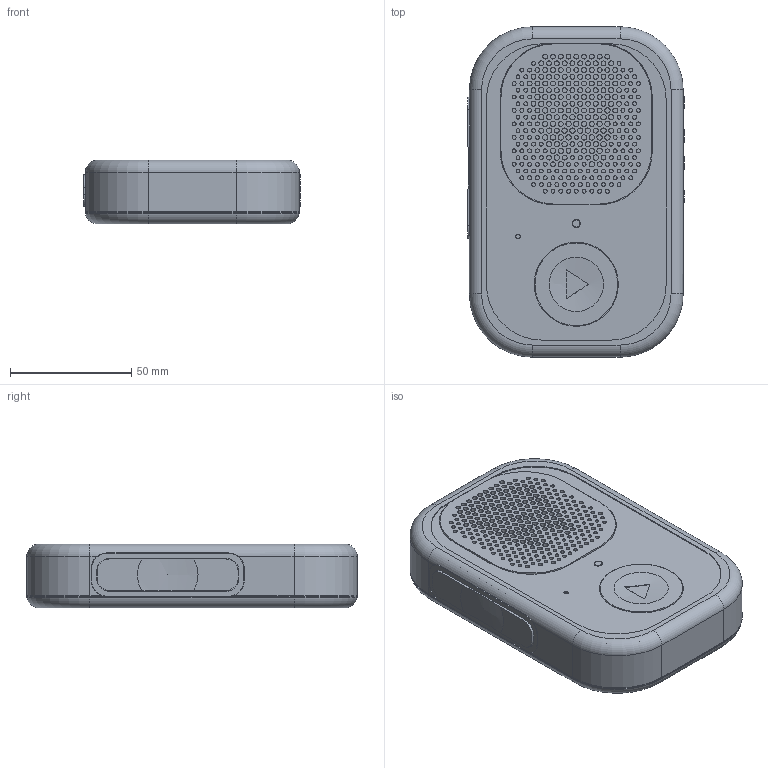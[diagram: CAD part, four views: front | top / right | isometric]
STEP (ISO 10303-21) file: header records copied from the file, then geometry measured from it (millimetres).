
FILE_DESCRIPTION(/* description */ (''),/* implementation_level */ '2;1');
FILE_NAME(/* name */ 'Walkie_One_5_2_R8_26_2_CASE_FUSION.step',/* time_stamp */ '2026-09-09T11:52:29-07:00',/* author */ (''),/* organization */ (''),/* preprocessor_version */ 'ST-DEVELOPER v20.1',/* originating_system */ 'Autodesk Translation Framework v15.8.0.0',/* authorisation */ '');
FILE_SCHEMA (('AUTOMOTIVE_DESIGN { 1 0 10303 214 3 1 1 }'));
Products named in the file (83): 2026-09-09-11-52-28-942; 2026-09-09-11-52-28-942_1; 2026-09-09-11-52-28-942_2; 2026-09-09-11-52-28-948; 2026-09-09-11-52-28-948_1; 2026-09-09-11-52-28-949; 2026-09-09-11-52-28-949_1; 2026-09-09-11-52-28-950; 2026-09-09-11-52-28-950_1; 2026-09-09-11-52-28-951; 2026-09-09-11-52-28-951_1; 2026-09-09-11-52-28-953; 2026-09-09-11-52-28-954; 2026-09-09-11-52-28-954_1; 2026-09-09-11-52-28-954_2; 2026-09-09-11-52-28-954_3; 2026-09-09-11-52-28-954_4; 2026-09-09-11-52-28-955; 2026-09-09-11-52-28-955_1; 2026-09-09-11-52-28-955_2; 2026-09-09-11-52-28-955_3; 2026-09-09-11-52-28-955_4; 2026-09-09-11-52-28-955_5; 2026-09-09-11-52-28-956; 2026-09-09-11-52-28-956_1; 2026-09-09-11-52-28-956_2; 2026-09-09-11-52-28-956_3; 2026-09-09-11-52-28-956_4; 2026-09-09-11-52-28-956_5; 2026-09-09-11-52-28-956_6; 2026-09-09-11-52-28-956_7; 2026-09-09-11-52-28-957; 2026-09-09-11-52-28-957_1; 2026-09-09-11-52-28-957_2; 2026-09-09-11-52-28-957_3; 2026-09-09-11-52-28-958; 2026-09-09-11-52-28-958_1; 2026-09-09-11-52-28-958_2; 2026-09-09-11-52-28-958_3; 2026-09-09-11-52-28-958_4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
Assembly tree (82 placements, depth 3):
  2026-09-09-11-52-28-942
    2026-09-09-11-52-28-942_1
      2026-09-09-11-52-28-942_2
    2026-09-09-11-52-28-948
      2026-09-09-11-52-28-948_1
    2026-09-09-11-52-28-949
      2026-09-09-11-52-28-949_1
    2026-09-09-11-52-28-950
      2026-09-09-11-52-28-950_1
    2026-09-09-11-52-28-951
      2026-09-09-11-52-28-951_1
    2026-09-09-11-52-28-953
      2026-09-09-11-52-28-954
    2026-09-09-11-52-28-954_1
      2026-09-09-11-52-28-954_2
    2026-09-09-11-52-28-954_3
      2026-09-09-11-52-28-954_4
    2026-09-09-11-52-28-955
      2026-09-09-11-52-28-955_1
    2026-09-09-11-52-28-955_2
      2026-09-09-11-52-28-955_3
    2026-09-09-11-52-28-955_4
      2026-09-09-11-52-28-955_5
    2026-09-09-11-52-28-956
      2026-09-09-11-52-28-956_1
    2026-09-09-11-52-28-956_2
      2026-09-09-11-52-28-956_3
    2026-09-09-11-52-28-956_4
      2026-09-09-11-52-28-956_5
    2026-09-09-11-52-28-956_6
      2026-09-09-11-52-28-956_7
    2026-09-09-11-52-28-957
      2026-09-09-11-52-28-957_1
    2026-09-09-11-52-28-957_2
      2026-09-09-11-52-28-957_3
    2026-09-09-11-52-28-958
      2026-09-09-11-52-28-958_1
    2026-09-09-11-52-28-958_2
      2026-09-09-11-52-28-958_3
    2026-09-09-11-52-28-958_4
      2026-09-09-11-52-28-958_5
    2026-09-09-11-52-28-959
      2026-09-09-11-52-28-959_1
    2026-09-09-11-52-28-959_2
      2026-09-09-11-52-28-959_3
    2026-09-09-11-52-28-959_4
      2026-09-09-11-52-28-959_5
    2026-09-09-11-52-28-959_6
      2026-09-09-11-52-28-959_7
    2026-09-09-11-52-28-959_8
      2026-09-09-11-52-28-959_9
    2026-09-09-11-52-28-960
      2026-09-09-11-52-28-960_1
    2026-09-09-11-52-28-960_2
      2026-09-09-11-52-28-960_3
    2026-09-09-11-52-28-960_4
      2026-09-09-11-52-28-960_5
    2026-09-09-11-52-28-960_6
      2026-09-09-11-52-28-960_7
    2026-09-09-11-52-28-960_8
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Bounding box: 89.16 x 136 x 26.2 mm (x, y, z)
Volume: 90528.5 mm3; surface area: 138129.8 mm2
Topology: 41 solids, 43 shells, 2087 faces, 5908 edges, 3910 vertices
Faces by surface type: plane 1229, cylinder 802, torus 44, cone 8, sphere 4
Full cylindrical faces by diameter (mm): 1.6 x157, 1.7 x10, 1.8 x2, 2 x111, 2.2 x62, 2.8 x4, 3 x1, 3.4 x1, 5 x2, 5.2 x2, 5.3 x1, 5.4 x2, 6.2 x1, 7 x1, 8 x1, 8.4 x1, 34 x1, 34.6 x1, 36.4 x2, 39.6 x1
Entity records: 73043 total; most frequent: CARTESIAN_POINT 13499, DIRECTION 12148, ORIENTED_EDGE 11814, EDGE_CURVE 5907, LINE 4074, VECTOR 4074, AXIS2_PLACEMENT_3D 4037, VERTEX_POINT 3910
